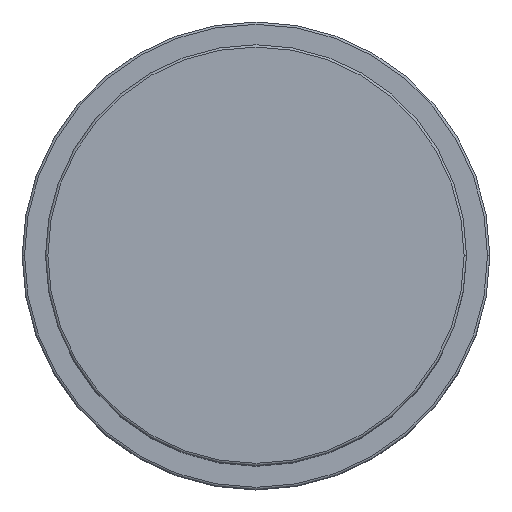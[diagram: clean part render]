
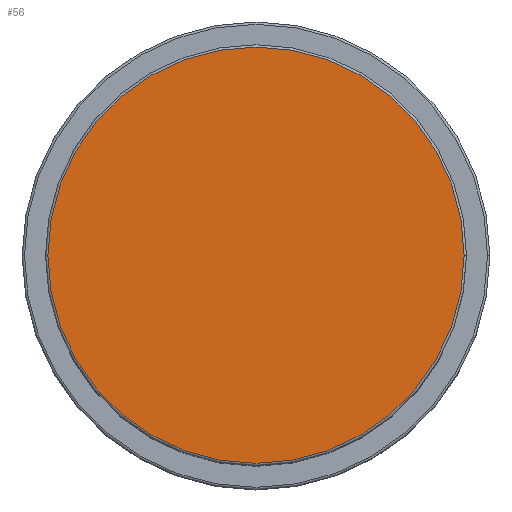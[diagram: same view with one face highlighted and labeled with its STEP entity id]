
A CAD part, top view. The second image highlights one B-rep face of the part: STEP entity #56.
In plain terms, the highlighted planar face has unit normal (0, 0, 1).
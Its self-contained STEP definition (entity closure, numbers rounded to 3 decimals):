
#56 = ADVANCED_FACE ( 'NONE', ( #1668 ), #526, .T. ) ;
#182 = AXIS2_PLACEMENT_3D ( 'NONE', #1599, #792, #1734 ) ;
#273 = CARTESIAN_POINT ( 'NONE',  ( 0., 0., 97. ) ) ;
#289 = EDGE_LOOP ( 'NONE', ( #900, #936 ) ) ;
#485 = CARTESIAN_POINT ( 'NONE',  ( 0., 0., 97. ) ) ;
#526 = PLANE ( 'NONE',  #182 ) ;
#732 = CARTESIAN_POINT ( 'NONE',  ( -44.5, 0., 97. ) ) ;
#792 = DIRECTION ( 'NONE',  ( 0., 0., 1. ) ) ;
#842 = EDGE_CURVE ( 'NONE', #1189, #1028, #1187, .T. ) ;
#900 = ORIENTED_EDGE ( 'NONE', *, *, #1040, .T. ) ;
#936 = ORIENTED_EDGE ( 'NONE', *, *, #842, .T. ) ;
#1011 = DIRECTION ( 'NONE',  ( 0., 0., 1. ) ) ;
#1028 = VERTEX_POINT ( 'NONE', #1348 ) ;
#1040 = EDGE_CURVE ( 'NONE', #1028, #1189, #1173, .T. ) ;
#1050 = AXIS2_PLACEMENT_3D ( 'NONE', #273, #1226, #1221 ) ;
#1173 = CIRCLE ( 'NONE', #1050, 44.5 ) ;
#1187 = CIRCLE ( 'NONE', #1282, 44.5 ) ;
#1189 = VERTEX_POINT ( 'NONE', #732 ) ;
#1221 = DIRECTION ( 'NONE',  ( 1., 0., 0. ) ) ;
#1226 = DIRECTION ( 'NONE',  ( 0., 0., 1. ) ) ;
#1282 = AXIS2_PLACEMENT_3D ( 'NONE', #485, #1011, #1419 ) ;
#1348 = CARTESIAN_POINT ( 'NONE',  ( 44.5, 0., 97. ) ) ;
#1419 = DIRECTION ( 'NONE',  ( 1., 0., 0. ) ) ;
#1599 = CARTESIAN_POINT ( 'NONE',  ( 0., 0., 97. ) ) ;
#1668 = FACE_OUTER_BOUND ( 'NONE', #289, .T. ) ;
#1734 = DIRECTION ( 'NONE',  ( 1., 0., 0. ) ) ;
